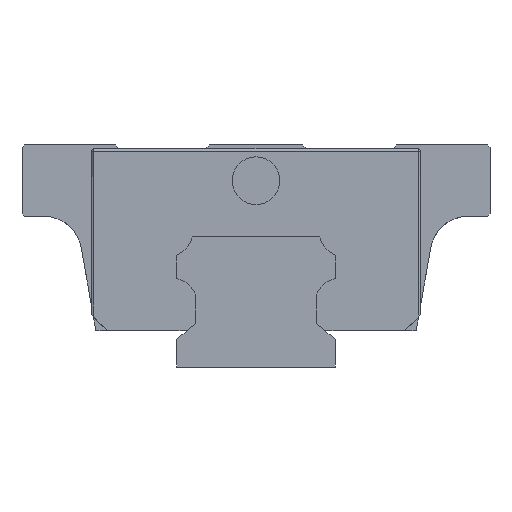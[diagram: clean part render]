
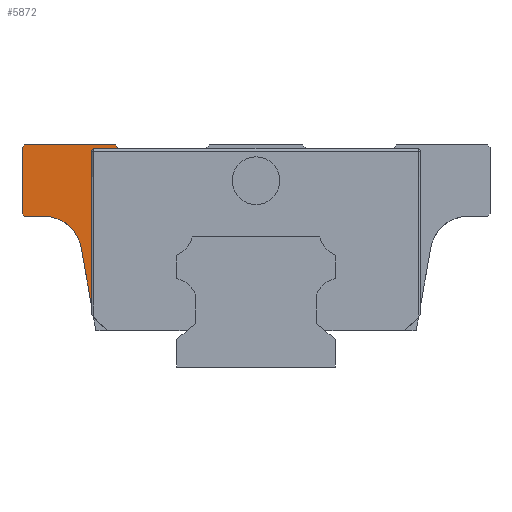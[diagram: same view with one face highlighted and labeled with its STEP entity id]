
A CAD part, left-side view. The second image highlights one B-rep face of the part: STEP entity #5872.
In plain terms, the highlighted planar face has unit normal (-1, 0, 0).
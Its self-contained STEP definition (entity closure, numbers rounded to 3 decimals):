
#23 = VERTEX_POINT ( 'NONE', #3377 ) ;
#150 = CARTESIAN_POINT ( 'NONE',  ( -23.35, -20.542, 27.5 ) ) ;
#235 = DIRECTION ( 'NONE',  ( 0., 1., 0. ) ) ;
#321 = DIRECTION ( 'NONE',  ( -1., 0., 0. ) ) ;
#409 = LINE ( 'NONE', #7341, #6739 ) ;
#640 = EDGE_CURVE ( 'NONE', #1505, #1424, #6573, .T. ) ;
#660 = CIRCLE ( 'NONE', #913, 0.295 ) ;
#705 = DIRECTION ( 'NONE',  ( 0., 0., 1. ) ) ;
#857 = LINE ( 'NONE', #3731, #6525 ) ;
#913 = AXIS2_PLACEMENT_3D ( 'NONE', #3173, #2592, #7339 ) ;
#956 = ORIENTED_EDGE ( 'NONE', *, *, #640, .F. ) ;
#1055 = CARTESIAN_POINT ( 'NONE',  ( -23.35, 29.5, 19.295 ) ) ;
#1158 = ORIENTED_EDGE ( 'NONE', *, *, #2020, .T. ) ;
#1231 = ORIENTED_EDGE ( 'NONE', *, *, #1568, .T. ) ;
#1274 = ORIENTED_EDGE ( 'NONE', *, *, #4578, .T. ) ;
#1277 = CIRCLE ( 'NONE', #1889, 4.75 ) ;
#1424 = VERTEX_POINT ( 'NONE', #1733 ) ;
#1446 = EDGE_CURVE ( 'NONE', #3549, #23, #1699, .T. ) ;
#1467 = DIRECTION ( 'NONE',  ( 0., 1., 0. ) ) ;
#1501 = ORIENTED_EDGE ( 'NONE', *, *, #5534, .T. ) ;
#1505 = VERTEX_POINT ( 'NONE', #2340 ) ;
#1568 = EDGE_CURVE ( 'NONE', #23, #6496, #1277, .T. ) ;
#1583 = CARTESIAN_POINT ( 'NONE',  ( -23.35, -8.741, 4.6 ) ) ;
#1633 = EDGE_CURVE ( 'NONE', #3414, #6651, #857, .T. ) ;
#1699 = LINE ( 'NONE', #6359, #2112 ) ;
#1733 = CARTESIAN_POINT ( 'NONE',  ( -23.35, 20.75, 7.78 ) ) ;
#1818 = LINE ( 'NONE', #4718, #3636 ) ;
#1889 = AXIS2_PLACEMENT_3D ( 'NONE', #5855, #4712, #705 ) ;
#2020 = EDGE_CURVE ( 'NONE', #6651, #2095, #4933, .T. ) ;
#2095 = VERTEX_POINT ( 'NONE', #3262 ) ;
#2112 = VECTOR ( 'NONE', #2727, 1000. ) ;
#2216 = VECTOR ( 'NONE', #4329, 1000. ) ;
#2292 = CARTESIAN_POINT ( 'NONE',  ( -23.35, 17.7, 28. ) ) ;
#2340 = CARTESIAN_POINT ( 'NONE',  ( -23.35, 20.75, 27.205 ) ) ;
#2592 = DIRECTION ( 'NONE',  ( 1., 0., 0. ) ) ;
#2692 = CARTESIAN_POINT ( 'NONE',  ( -23.35, 22.728, 19. ) ) ;
#2727 = DIRECTION ( 'NONE',  ( 0., -1., 0. ) ) ;
#2974 = VERTEX_POINT ( 'NONE', #1055 ) ;
#2994 = EDGE_CURVE ( 'NONE', #6496, #1424, #4528, .T. ) ;
#3129 = AXIS2_PLACEMENT_3D ( 'NONE', #1583, #321, #7365 ) ;
#3151 = LINE ( 'NONE', #150, #4676 ) ;
#3162 = FACE_OUTER_BOUND ( 'NONE', #5973, .T. ) ;
#3173 = CARTESIAN_POINT ( 'NONE',  ( -23.35, 20.455, 27.205 ) ) ;
#3248 = CARTESIAN_POINT ( 'NONE',  ( -23.35, 17.28, 27.5 ) ) ;
#3262 = CARTESIAN_POINT ( 'NONE',  ( -23.35, 29.5, 27.705 ) ) ;
#3321 = DIRECTION ( 'NONE',  ( 0., 0.643, 0.766 ) ) ;
#3377 = CARTESIAN_POINT ( 'NONE',  ( -23.35, 26.714, 19. ) ) ;
#3414 = VERTEX_POINT ( 'NONE', #2292 ) ;
#3549 = VERTEX_POINT ( 'NONE', #4734 ) ;
#3596 = CARTESIAN_POINT ( 'NONE',  ( -23.35, 29.205, 28. ) ) ;
#3605 = EDGE_CURVE ( 'NONE', #1505, #4017, #660, .T. ) ;
#3636 = VECTOR ( 'NONE', #5905, 1000. ) ;
#3703 = VERTEX_POINT ( 'NONE', #3248 ) ;
#3731 = CARTESIAN_POINT ( 'NONE',  ( -23.35, 17.7, 28. ) ) ;
#3914 = ORIENTED_EDGE ( 'NONE', *, *, #6943, .T. ) ;
#4017 = VERTEX_POINT ( 'NONE', #7215 ) ;
#4329 = DIRECTION ( 'NONE',  ( 0., 0.707, -0.707 ) ) ;
#4363 = LINE ( 'NONE', #4852, #6174 ) ;
#4528 = LINE ( 'NONE', #2692, #5588 ) ;
#4578 = EDGE_CURVE ( 'NONE', #2974, #3549, #1818, .T. ) ;
#4676 = VECTOR ( 'NONE', #235, 1000. ) ;
#4712 = DIRECTION ( 'NONE',  ( 1., 0., 0. ) ) ;
#4718 = CARTESIAN_POINT ( 'NONE',  ( -23.35, 3.032, -7.173 ) ) ;
#4734 = CARTESIAN_POINT ( 'NONE',  ( -23.35, 29.205, 19. ) ) ;
#4844 = DIRECTION ( 'NONE',  ( 0., 0., -1. ) ) ;
#4852 = CARTESIAN_POINT ( 'NONE',  ( -23.35, 29.5, 28. ) ) ;
#4862 = CARTESIAN_POINT ( 'NONE',  ( -23.35, 22.036, 15.075 ) ) ;
#4933 = LINE ( 'NONE', #7237, #2216 ) ;
#5072 = VECTOR ( 'NONE', #4844, 1000. ) ;
#5242 = ORIENTED_EDGE ( 'NONE', *, *, #1633, .T. ) ;
#5457 = ORIENTED_EDGE ( 'NONE', *, *, #3605, .T. ) ;
#5534 = EDGE_CURVE ( 'NONE', #2095, #2974, #4363, .T. ) ;
#5563 = ORIENTED_EDGE ( 'NONE', *, *, #1446, .T. ) ;
#5588 = VECTOR ( 'NONE', #7520, 1000. ) ;
#5650 = ORIENTED_EDGE ( 'NONE', *, *, #6473, .F. ) ;
#5855 = CARTESIAN_POINT ( 'NONE',  ( -23.35, 26.714, 14.25 ) ) ;
#5872 = ADVANCED_FACE ( 'NONE', ( #3162 ), #6214, .T. ) ;
#5905 = DIRECTION ( 'NONE',  ( 0., -0.707, -0.707 ) ) ;
#5963 = CARTESIAN_POINT ( 'NONE',  ( -23.35, 20.75, 26.875 ) ) ;
#5973 = EDGE_LOOP ( 'NONE', ( #5650, #3914, #5242, #1158, #1501, #1274, #5563, #1231, #7514, #956, #5457 ) ) ;
#6174 = VECTOR ( 'NONE', #7192, 1000. ) ;
#6214 = PLANE ( 'NONE',  #3129 ) ;
#6359 = CARTESIAN_POINT ( 'NONE',  ( -23.35, 29.5, 19. ) ) ;
#6473 = EDGE_CURVE ( 'NONE', #3703, #4017, #3151, .T. ) ;
#6496 = VERTEX_POINT ( 'NONE', #4862 ) ;
#6525 = VECTOR ( 'NONE', #1467, 1000. ) ;
#6573 = LINE ( 'NONE', #5963, #5072 ) ;
#6651 = VERTEX_POINT ( 'NONE', #3596 ) ;
#6739 = VECTOR ( 'NONE', #3321, 1000. ) ;
#6943 = EDGE_CURVE ( 'NONE', #3703, #3414, #409, .T. ) ;
#7192 = DIRECTION ( 'NONE',  ( 0., 0., -1. ) ) ;
#7215 = CARTESIAN_POINT ( 'NONE',  ( -23.35, 20.455, 27.5 ) ) ;
#7237 = CARTESIAN_POINT ( 'NONE',  ( -23.35, 21.932, 35.273 ) ) ;
#7339 = DIRECTION ( 'NONE',  ( 0., 0., 1. ) ) ;
#7341 = CARTESIAN_POINT ( 'NONE',  ( -23.35, 17.228, 27.438 ) ) ;
#7365 = DIRECTION ( 'NONE',  ( 0., 0., 1. ) ) ;
#7514 = ORIENTED_EDGE ( 'NONE', *, *, #2994, .T. ) ;
#7520 = DIRECTION ( 'NONE',  ( 0., -0.174, -0.985 ) ) ;
